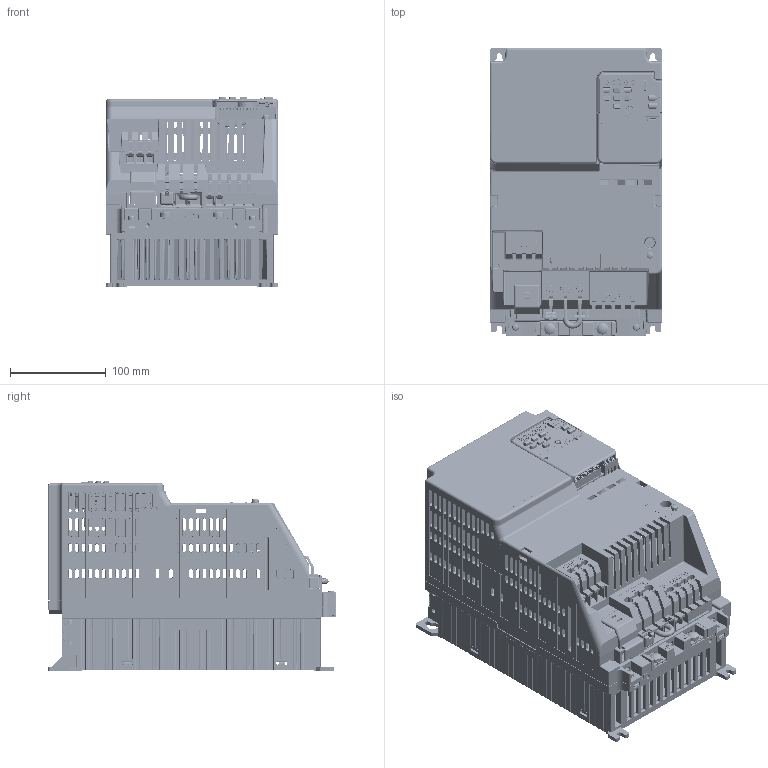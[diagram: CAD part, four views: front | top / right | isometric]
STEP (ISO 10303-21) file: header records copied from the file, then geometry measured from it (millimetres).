
FILE_DESCRIPTION((''),'2;1');
FILE_NAME('GA500_EMC_FRAME_V6-C_ASM','2019-03-08T',('jam'),('YASKAWA ELECTRIC CORCORATION'),'PRO/ENGINEER BY PARAMETRIC TECHNOLOGY CORPORATION, 2015440','PRO/ENGINEER BY PARAMETRIC TECHNOLOGY CORPORATION, 2015440','');
FILE_SCHEMA(('CONFIG_CONTROL_DESIGN'));
Products named in the file (51): 400-104-202_1; 400-104-430_1; SCAT41094_1; 06025VG-24S-BA-YY_02_1; 400-104-173_1; 400-104-293-01B-1_1; MKDS10HV_5-ZB-10P16_1; 300-093-088_1; ETP761750_ASM_1_ASM; SCAT41285_M4X12_TOGARISAKIKARI_; 400-104-428_ASM_1_ASM; 400-104-316-01C-2_1; MKDS10HV_3-ZB-10P16_1; ETX731580_ASM_1_ASM; TS21A_M4-08_1; 400-112-393_1; HSR-M4-7P4_1; 400-112-393_ASM_1_ASM; 400-104-434_1; 400-104-023-01F-5_1; 95003-2884_1; B12B-PASK-1_1; 1734753-1_AF0_1; DHB-PD20-S131N-4P9_AF0_1; KARI_SPTA1_9-3P5_AF0_1; KARI_SPTA1_8-3P5_AF0_1; SPTA1_11-3P5_AF0_1; SPTA1_3-5P0_AF0_1; KTC750050-SXXXX_ASM_1_ASM; F354371_1; F354373_1; F354374_1; F354372_1; V-GEM_PWB2_1; 55265-0811_AF0_1; SM10B-SURS-TF_1_1; V-GIM_PWB_ASM2_ASM_1_ASM; GA500_KEYPAD_20180227_ASM_1_ASM; 400-104-186_1; 400-104-251_1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
Assembly tree (58 placements, depth 5):
  GA500_EMC_FRAME_V6-C_ASM
    KIPR-GA50_Q_4038_ASM_1_ASM
      400-104-202_1
      400-104-430_1
      SCAT41094_1  x2
      06025VG-24S-BA-YY_02_1  x2
      400-104-173_1
      ETP761750_ASM_1_ASM
        400-104-293-01B-1_1
        MKDS10HV_5-ZB-10P16_1
        300-093-088_1
      SCAT41285_M4X12_TOGARISAKIKARI_  x4
      400-104-428_ASM_1_ASM
      ETX731580_ASM_1_ASM
        400-104-316-01C-2_1
        MKDS10HV_3-ZB-10P16_1
      TS21A_M4-08_1  x3
      400-112-393_ASM_1_ASM
        400-112-393_1
        HSR-M4-7P4_1
      400-104-434_1
      KTC750050-SXXXX_ASM_1_ASM
        400-104-023-01F-5_1
        95003-2884_1
        B12B-PASK-1_1
        1734753-1_AF0_1
        DHB-PD20-S131N-4P9_AF0_1
        KARI_SPTA1_9-3P5_AF0_1
        KARI_SPTA1_8-3P5_AF0_1
        SPTA1_11-3P5_AF0_1
        SPTA1_3-5P0_AF0_1
      GA500_KEYPAD_20180227_ASM_1_ASM
        F354371_1
        F354373_1
        F354374_1
        F354372_1
        V-GIM_PWB_ASM2_ASM_1_ASM
          V-GEM_PWB2_1
          55265-0811_AF0_1
          SM10B-SURS-TF_1_1
      400-104-186_1
      400-104-251_1
      400-113-355_1
      400-115-297-005_1
      MS15_M4X20_1
      400-104-204_4_1  x2
      400-104-206_5_1
      400-104-204_1_1
      400-104-204_2_1
      400-104-204_3_1
      400-104-204_7_1
Bounding box: 180.02 x 300 x 198.75 mm (x, y, z)
Volume: 876351.2 mm3; surface area: 1016919.9 mm2
Topology: 49 solids, 76 shells, 23205 faces, 64115 edges, 41261 vertices
Faces by surface type: plane 13786, cylinder 4858, bspline 1872, cone 1675, torus 703, sphere 311
Entity records: 854302 total; most frequent: CARTESIAN_POINT 286515, ORIENTED_EDGE 125530, DIRECTION 107028, EDGE_CURVE 62765, VECTOR 43108, LINE 43108, VERTEX_POINT 40607, AXIS2_PLACEMENT_3D 31960
